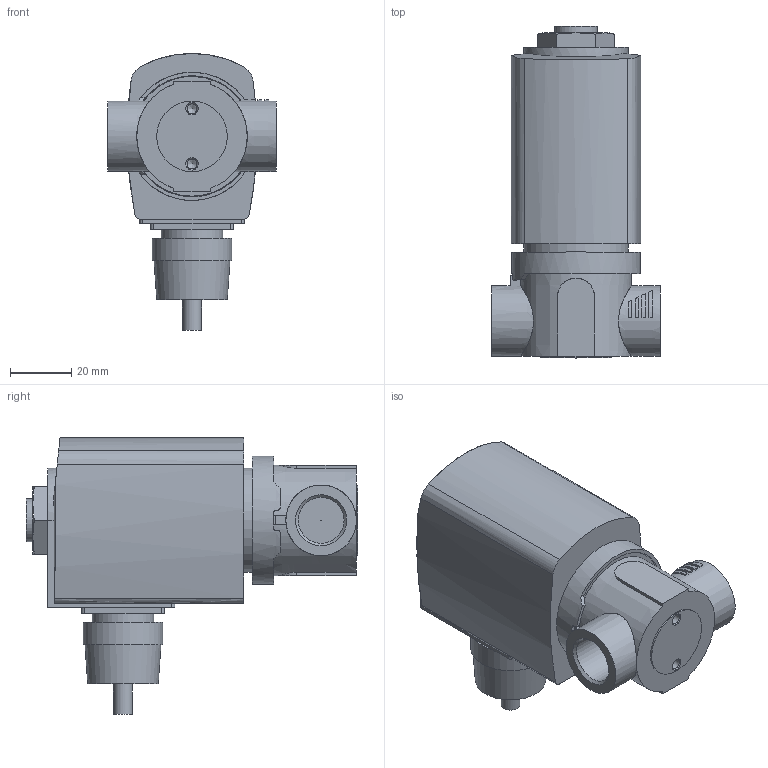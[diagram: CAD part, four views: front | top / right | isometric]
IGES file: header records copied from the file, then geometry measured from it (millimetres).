
Start section: Data from Parasolid IGES Translator 26.0.171, Copyright(c) 2006 Siemens PLM Software. All Rights Reserved.
Global section: file name: 6027-A-3-PTFE___FKM-MS-G_3_8-42-024___UC.igs; native system: By Siemens PLM Incorporated; preprocessor: XPlus GENERIC/IGES 26.0.171; author: Noname; organization: Noname; date: 20240320.133519; units: millimetre
Bounding box: 55 x 108.2 x 90.3 mm (x, y, z)
Surface area: 29804 mm2 (no closed solid volume)
Topology: 0 solids, 0 shells, 130 faces, 650 edges, 633 vertices
Faces by surface type: extrusion 71, revolution 59
